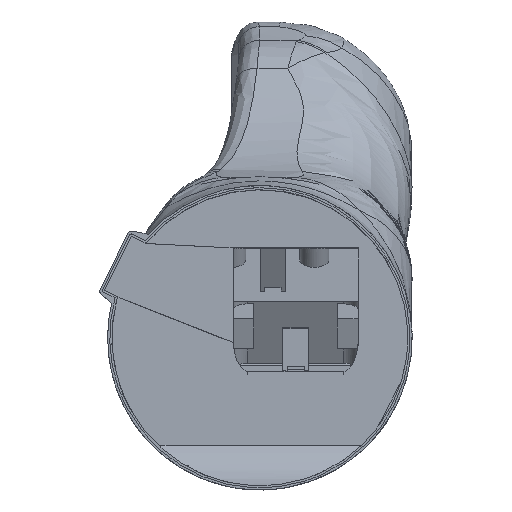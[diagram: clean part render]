
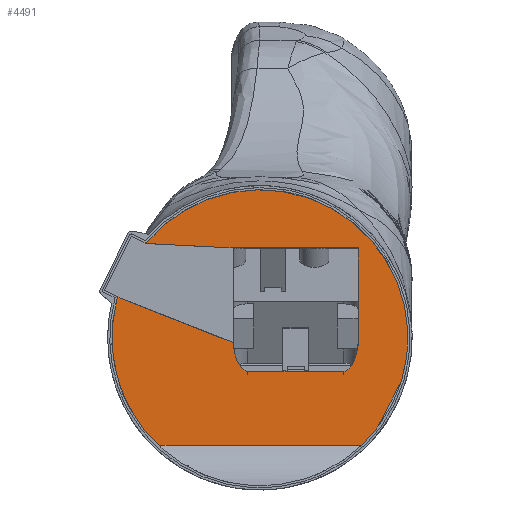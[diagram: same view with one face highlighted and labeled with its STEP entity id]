
A CAD part, top view. The second image highlights one B-rep face of the part: STEP entity #4491.
In plain terms, the highlighted planar face has unit normal (0, 0, 1).
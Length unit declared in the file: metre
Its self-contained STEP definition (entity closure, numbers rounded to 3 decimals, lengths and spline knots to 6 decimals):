
#94=ELLIPSE('',#4807,0.008,0.004);
#95=ELLIPSE('',#4808,0.008,0.004);
#130=PLANE('',#4806);
#458=LINE('',#6361,#795);
#470=LINE('',#6390,#807);
#493=LINE('',#6554,#830);
#496=LINE('',#6564,#833);
#515=LINE('',#6749,#852);
#516=LINE('',#6750,#853);
#517=LINE('',#6751,#854);
#518=LINE('',#6753,#855);
#519=LINE('',#6757,#856);
#520=LINE('',#6760,#857);
#521=LINE('',#6761,#858);
#795=VECTOR('',#5204,1.);
#807=VECTOR('',#5222,1.);
#830=VECTOR('',#5285,1.);
#833=VECTOR('',#5290,1.);
#852=VECTOR('',#5317,1.);
#853=VECTOR('',#5318,1.);
#854=VECTOR('',#5319,1.);
#855=VECTOR('',#5320,1.);
#856=VECTOR('',#5323,1.);
#857=VECTOR('',#5326,1.);
#858=VECTOR('',#5327,1.);
#1285=ORIENTED_EDGE('',*,*,#2536,.F.);
#1286=ORIENTED_EDGE('',*,*,#2690,.F.);
#1287=ORIENTED_EDGE('',*,*,#2532,.F.);
#1288=ORIENTED_EDGE('',*,*,#2691,.F.);
#1289=ORIENTED_EDGE('',*,*,#2647,.F.);
#1290=ORIENTED_EDGE('',*,*,#2692,.T.);
#1291=ORIENTED_EDGE('',*,*,#2693,.F.);
#1292=ORIENTED_EDGE('',*,*,#2694,.F.);
#1293=ORIENTED_EDGE('',*,*,#2695,.T.);
#1294=ORIENTED_EDGE('',*,*,#2696,.F.);
#1295=ORIENTED_EDGE('',*,*,#2651,.F.);
#1296=ORIENTED_EDGE('',*,*,#2585,.T.);
#1297=ORIENTED_EDGE('',*,*,#2598,.F.);
#1298=ORIENTED_EDGE('',*,*,#2552,.F.);
#1299=ORIENTED_EDGE('',*,*,#2697,.T.);
#1300=ORIENTED_EDGE('',*,*,#2548,.F.);
#1301=ORIENTED_EDGE('',*,*,#2698,.F.);
#2532=EDGE_CURVE('',#3241,#3242,#3693,.T.);
#2536=EDGE_CURVE('',#3245,#3246,#3695,.F.);
#2548=EDGE_CURVE('',#3257,#3258,#3698,.F.);
#2552=EDGE_CURVE('',#3261,#3262,#3700,.T.);
#2585=EDGE_CURVE('',#3295,#3293,#458,.T.);
#2598=EDGE_CURVE('',#3262,#3293,#470,.T.);
#2647=EDGE_CURVE('',#3350,#3303,#493,.T.);
#2651=EDGE_CURVE('',#3295,#3353,#496,.T.);
#2690=EDGE_CURVE('',#3242,#3245,#515,.T.);
#2691=EDGE_CURVE('',#3303,#3241,#516,.T.);
#2692=EDGE_CURVE('',#3350,#3386,#517,.T.);
#2693=EDGE_CURVE('',#3387,#3386,#518,.T.);
#2694=EDGE_CURVE('',#3388,#3387,#94,.T.);
#2695=EDGE_CURVE('',#3388,#3389,#519,.T.);
#2696=EDGE_CURVE('',#3353,#3389,#95,.T.);
#2697=EDGE_CURVE('',#3261,#3258,#520,.T.);
#2698=EDGE_CURVE('',#3246,#3257,#521,.F.);
#3241=VERTEX_POINT('',#6209);
#3242=VERTEX_POINT('',#6211);
#3245=VERTEX_POINT('',#6217);
#3246=VERTEX_POINT('',#6219);
#3257=VERTEX_POINT('',#6264);
#3258=VERTEX_POINT('',#6266);
#3261=VERTEX_POINT('',#6272);
#3262=VERTEX_POINT('',#6274);
#3293=VERTEX_POINT('',#6359);
#3295=VERTEX_POINT('',#6362);
#3303=VERTEX_POINT('',#6385);
#3350=VERTEX_POINT('',#6553);
#3353=VERTEX_POINT('',#6565);
#3386=VERTEX_POINT('',#6752);
#3387=VERTEX_POINT('',#6754);
#3388=VERTEX_POINT('',#6756);
#3389=VERTEX_POINT('',#6758);
#3693=CIRCLE('',#4753,0.0355);
#3695=CIRCLE('',#4755,0.0355);
#3698=CIRCLE('',#4758,0.0355);
#3700=CIRCLE('',#4760,0.0355);
#3860=EDGE_LOOP('',(#1285,#1286,#1287,#1288,#1289,#1290,#1291,#1292,#1293,
#1294,#1295,#1296,#1297,#1298,#1299,#1300,#1301));
#4144=FACE_BOUND('',#3860,.T.);
#4491=ADVANCED_FACE('',(#4144),#130,.F.);
#4753=AXIS2_PLACEMENT_3D('',#6210,#5131,#5132);
#4755=AXIS2_PLACEMENT_3D('',#6218,#5137,#5138);
#4758=AXIS2_PLACEMENT_3D('',#6265,#5147,#5148);
#4760=AXIS2_PLACEMENT_3D('',#6273,#5153,#5154);
#4806=AXIS2_PLACEMENT_3D('',#6748,#5315,#5316);
#4807=AXIS2_PLACEMENT_3D('',#6755,#5321,#5322);
#4808=AXIS2_PLACEMENT_3D('',#6759,#5324,#5325);
#5131=DIRECTION('',(0.,0.,-1.));
#5132=DIRECTION('',(-1.,0.,0.));
#5137=DIRECTION('',(0.,0.,1.));
#5138=DIRECTION('',(1.,0.,0.));
#5147=DIRECTION('',(0.,0.,1.));
#5148=DIRECTION('',(1.,0.,0.));
#5153=DIRECTION('',(0.,0.,-1.));
#5154=DIRECTION('',(-1.,0.,0.));
#5204=DIRECTION('',(-0.897,0.441,0.));
#5222=DIRECTION('',(0.249,0.969,0.));
#5285=DIRECTION('',(-0.999,0.051,0.));
#5290=DIRECTION('',(0.93,-0.366,0.));
#5315=DIRECTION('',(0.,0.,-1.));
#5316=DIRECTION('',(-1.,0.,0.));
#5317=DIRECTION('',(-0.462,-0.887,0.));
#5318=DIRECTION('',(0.441,0.897,0.));
#5319=DIRECTION('',(1.,0.,0.));
#5320=DIRECTION('',(0.,1.,0.));
#5321=DIRECTION('',(0.,0.,1.));
#5322=DIRECTION('',(0.,-1.,0.));
#5323=DIRECTION('',(-1.,0.,0.));
#5324=DIRECTION('',(0.,0.,1.));
#5325=DIRECTION('',(0.,-1.,0.));
#5326=DIRECTION('',(0.596,-0.803,0.));
#5327=DIRECTION('',(1.,0.,0.));
#6209=CARTESIAN_POINT('',(0.046318,0.03032,-0.0184));
#6210=CARTESIAN_POINT('',(0.073468,0.007448,-0.0184));
#6211=CARTESIAN_POINT('',(0.107443,-0.002844,-0.0184));
#6217=CARTESIAN_POINT('',(0.10136,-0.014513,-0.0184));
#6218=CARTESIAN_POINT('',(0.073468,0.007448,-0.0184));
#6219=CARTESIAN_POINT('',(0.097904,-0.018304,-0.0184));
#6264=CARTESIAN_POINT('',(0.049032,-0.018304,-0.0184));
#6265=CARTESIAN_POINT('',(0.073468,0.007448,-0.0184));
#6266=CARTESIAN_POINT('',(0.045576,-0.014513,-0.0184));
#6272=CARTESIAN_POINT('',(0.044386,-0.012912,-0.0184));
#6273=CARTESIAN_POINT('',(0.073468,0.007448,-0.0184));
#6274=CARTESIAN_POINT('',(0.039085,0.016282,-0.0184));
#6359=CARTESIAN_POINT('',(0.039339,0.017271,-0.0184));
#6361=CARTESIAN_POINT('',(0.037995,0.017932,-0.0184));
#6362=CARTESIAN_POINT('',(0.03979,0.017049,-0.0184));
#6385=CARTESIAN_POINT('',(0.04619,0.03006,-0.0184));
#6390=CARTESIAN_POINT('',(0.039212,0.016776,-0.0184));
#6553=CARTESIAN_POINT('',(0.067028,0.029006,-0.0184));
#6554=CARTESIAN_POINT('',(0.056609,0.029533,-0.0184));
#6564=CARTESIAN_POINT('',(0.053409,0.011686,-0.0184));
#6565=CARTESIAN_POINT('',(0.067028,0.006323,-0.0184));
#6748=CARTESIAN_POINT('',(0.073468,0.007448,-0.0184));
#6749=CARTESIAN_POINT('',(0.105298,-0.00696,-0.0184));
#6750=CARTESIAN_POINT('',(0.042549,0.022657,-0.0184));
#6751=CARTESIAN_POINT('',(0.082028,0.029006,-0.0184));
#6752=CARTESIAN_POINT('',(0.097028,0.029006,-0.0184));
#6753=CARTESIAN_POINT('',(0.097028,0.007448,-0.0184));
#6754=CARTESIAN_POINT('',(0.097028,0.006323,-0.0184));
#6755=CARTESIAN_POINT('',(0.093056,0.007267,-0.0184));
#6756=CARTESIAN_POINT('',(0.093528,-0.000677,-0.0184));
#6757=CARTESIAN_POINT('',(0.073468,-0.000677,-0.0184));
#6758=CARTESIAN_POINT('',(0.070528,-0.000677,-0.0184));
#6759=CARTESIAN_POINT('',(0.071,0.007267,-0.0184));
#6760=CARTESIAN_POINT('',(0.044981,-0.013712,-0.0184));
#6761=CARTESIAN_POINT('',(0.036966,-0.018304,-0.0184));
